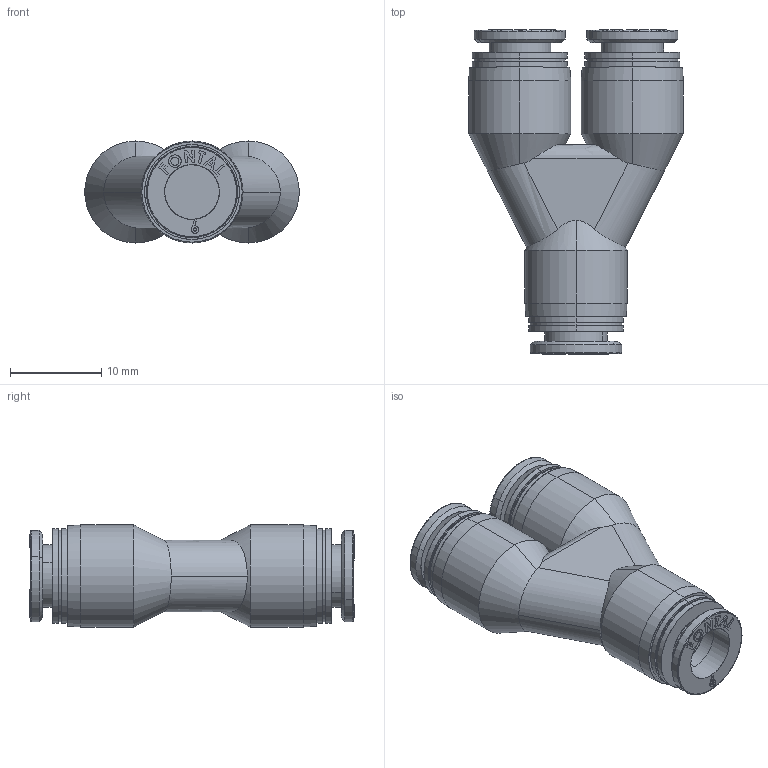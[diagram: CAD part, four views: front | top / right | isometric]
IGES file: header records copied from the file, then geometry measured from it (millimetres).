
Start section: SolidWorks IGES file using analytic representation for surfaces
Global section: file name: D:\Custom\3D繪製\ADDITIONAL\FPY\FPY6.IGS,1; native system: 5HSolidWorks 2014; preprocessor: SolidWorks 2014; author: Chieh_Lu; date: 160115.050957; units: millimetre
Bounding box: 23.55 x 35.65 x 11.2 mm (x, y, z)
Surface area: 3515 mm2 (no closed solid volume)
Topology: 0 solids, 0 shells, 341 faces, 4019 edges, 4019 vertices
Faces by surface type: bspline 261, revolution 80
